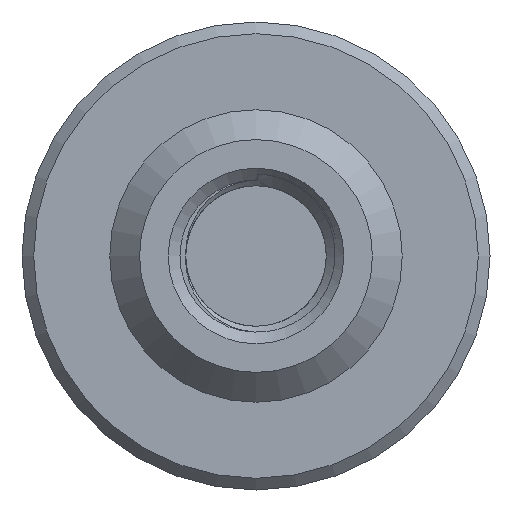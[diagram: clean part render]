
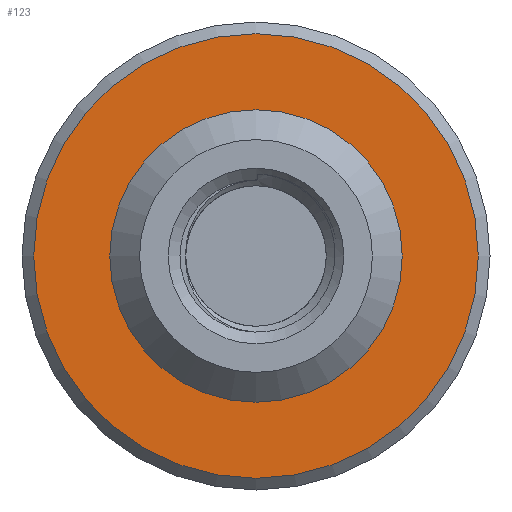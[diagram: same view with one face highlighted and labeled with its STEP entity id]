
A CAD part, left-side view. The second image highlights one B-rep face of the part: STEP entity #123.
In plain terms, the highlighted planar face has unit normal (-1, 0, 0).
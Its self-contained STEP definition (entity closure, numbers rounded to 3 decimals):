
#78=CARTESIAN_POINT('',(-5.,-100.,0.));
#79=DIRECTION('',(-1.,0.,0.));
#80=DIRECTION('',(0.,-1.,0.));
#81=AXIS2_PLACEMENT_3D('',#78,#79,#80);
#82=PLANE('',#81);
#83=CARTESIAN_POINT('',(-5.,-100.,19.));
#84=VERTEX_POINT('',#83);
#85=CARTESIAN_POINT('',(-5.,-100.,-19.));
#86=VERTEX_POINT('',#85);
#87=CARTESIAN_POINT('',(-5.,-100.,0.));
#88=DIRECTION('',(-1.,0.,0.));
#89=DIRECTION('',(0.,0.,1.));
#90=AXIS2_PLACEMENT_3D('',#87,#88,#89);
#91=CIRCLE('',#90,19.);
#92=EDGE_CURVE('',#84,#86,#91,.T.);
#93=ORIENTED_EDGE('',*,*,#92,.T.);
#94=CARTESIAN_POINT('',(-5.,-100.,0.));
#95=DIRECTION('',(-1.,0.,0.));
#96=DIRECTION('',(0.,0.,1.));
#97=AXIS2_PLACEMENT_3D('',#94,#95,#96);
#98=CIRCLE('',#97,19.);
#99=EDGE_CURVE('',#86,#84,#98,.T.);
#100=ORIENTED_EDGE('',*,*,#99,.T.);
#101=EDGE_LOOP('',(#93,#100));
#102=FACE_BOUND('',#101,.T.);
#103=CARTESIAN_POINT('',(-5.,-100.,12.5));
#104=VERTEX_POINT('',#103);
#105=CARTESIAN_POINT('',(-5.,-100.,-12.5));
#106=VERTEX_POINT('',#105);
#107=CARTESIAN_POINT('',(-5.,-100.,0.));
#108=DIRECTION('',(1.,-0.,-0.));
#109=DIRECTION('',(0.,0.,1.));
#110=AXIS2_PLACEMENT_3D('',#107,#108,#109);
#111=CIRCLE('',#110,12.5);
#112=EDGE_CURVE('',#104,#106,#111,.T.);
#113=ORIENTED_EDGE('',*,*,#112,.T.);
#114=CARTESIAN_POINT('',(-5.,-100.,0.));
#115=DIRECTION('',(1.,-0.,-0.));
#116=DIRECTION('',(0.,0.,1.));
#117=AXIS2_PLACEMENT_3D('',#114,#115,#116);
#118=CIRCLE('',#117,12.5);
#119=EDGE_CURVE('',#106,#104,#118,.T.);
#120=ORIENTED_EDGE('',*,*,#119,.T.);
#121=EDGE_LOOP('',(#113,#120));
#122=FACE_BOUND('',#121,.T.);
#123=ADVANCED_FACE('',(#102,#122),#82,.T.);
